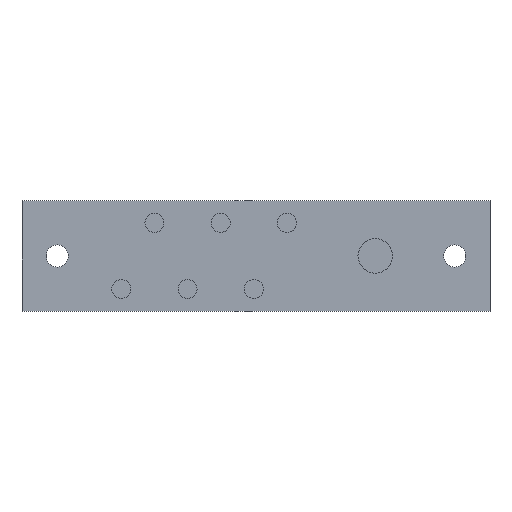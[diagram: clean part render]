
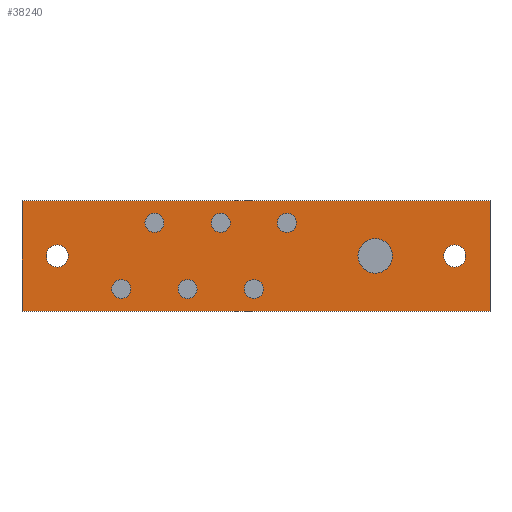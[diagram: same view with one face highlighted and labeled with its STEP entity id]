
A CAD part, top view. The second image highlights one B-rep face of the part: STEP entity #38240.
In plain terms, the highlighted planar face has unit normal (0, 0, 1).
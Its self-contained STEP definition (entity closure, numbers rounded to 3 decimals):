
#35910=CARTESIAN_POINT('',(249.512,66.46,3.));
#35920=VERTEX_POINT('',#35910);
#35950=CARTESIAN_POINT('',(249.512,66.46,3.));
#35960=DIRECTION('',(-1.,0.,0.));
#35970=VECTOR('',#35960,1.);
#35980=LINE('',#35950,#35970);
#35990=CARTESIAN_POINT('',(143.512,66.46,3.));
#36000=VERTEX_POINT('',#35990);
#36010=EDGE_CURVE('',#35920,#36000,#35980,.T.);
#36220=CARTESIAN_POINT('',(249.512,41.46,3.));
#36230=VERTEX_POINT('',#36220);
#36260=CARTESIAN_POINT('',(249.512,41.46,3.));
#36270=DIRECTION('',(0.,1.,0.));
#36280=VECTOR('',#36270,1.);
#36290=LINE('',#36260,#36280);
#36300=EDGE_CURVE('',#36230,#35920,#36290,.T.);
#36460=CARTESIAN_POINT('',(143.512,41.46,3.));
#36470=VERTEX_POINT('',#36460);
#36500=CARTESIAN_POINT('',(143.512,41.46,3.));
#36510=DIRECTION('',(1.,0.,0.));
#36520=VECTOR('',#36510,1.);
#36530=LINE('',#36500,#36520);
#36540=EDGE_CURVE('',#36470,#36230,#36530,.T.);
#36670=CARTESIAN_POINT('',(143.512,66.46,3.));
#36680=DIRECTION('',(0.,-1.,0.));
#36690=VECTOR('',#36680,1.);
#36700=LINE('',#36670,#36690);
#36710=EDGE_CURVE('',#36000,#36470,#36700,.T.);
#36780=CARTESIAN_POINT('',(0.,0.,3.));
#36790=DIRECTION('',(0.,0.,1.));
#36800=DIRECTION('',(1.,0.,0.));
#36810=AXIS2_PLACEMENT_3D('',#36780,#36790,#36800);
#36820=PLANE('',#36810);
#36830=ORIENTED_EDGE('',*,*,#36010,.T.);
#36840=ORIENTED_EDGE('',*,*,#36300,.T.);
#36850=ORIENTED_EDGE('',*,*,#36540,.T.);
#36860=ORIENTED_EDGE('',*,*,#36710,.T.);
#36870=EDGE_LOOP('',(#36860,#36850,#36840,#36830));
#36880=FACE_OUTER_BOUND('',#36870,.T.);
#36890=CARTESIAN_POINT('',(241.512,53.96,3.));
#36900=DIRECTION('',(0.,0.,-1.));
#36910=DIRECTION('',(1.,0.,0.));
#36920=AXIS2_PLACEMENT_3D('',#36890,#36900,#36910);
#36930=CIRCLE('',#36920,2.5);
#36940=CARTESIAN_POINT('',(239.012,53.96,3.));
#36950=VERTEX_POINT('',#36940);
#36960=CARTESIAN_POINT('',(244.012,53.96,3.));
#36970=VERTEX_POINT('',#36960);
#36980=EDGE_CURVE('',#36950,#36970,#36930,.T.);
#36990=ORIENTED_EDGE('',*,*,#36980,.T.);
#37000=EDGE_CURVE('',#36970,#36950,#36930,.T.);
#37010=ORIENTED_EDGE('',*,*,#37000,.T.);
#37020=EDGE_LOOP('',(#37010,#36990));
#37030=FACE_BOUND('',#37020,.T.);
#37040=CARTESIAN_POINT('',(196.012,46.46,3.));
#37050=DIRECTION('',(0.,0.,-1.));
#37060=DIRECTION('',(-1.,0.,0.));
#37070=AXIS2_PLACEMENT_3D('',#37040,#37050,#37060);
#37080=CIRCLE('',#37070,2.);
#37090=CARTESIAN_POINT('',(198.012,46.46,3.));
#37100=VERTEX_POINT('',#37090);
#37110=CARTESIAN_POINT('',(194.012,46.46,3.));
#37120=VERTEX_POINT('',#37110);
#37130=EDGE_CURVE('',#37100,#37120,#37080,.T.);
#37140=ORIENTED_EDGE('',*,*,#37130,.T.);
#37150=EDGE_CURVE('',#37120,#37100,#37080,.T.);
#37160=ORIENTED_EDGE('',*,*,#37150,.T.);
#37170=EDGE_LOOP('',(#37160,#37140));
#37180=FACE_BOUND('',#37170,.T.);
#37190=CARTESIAN_POINT('',(151.512,53.96,3.));
#37200=DIRECTION('',(0.,0.,-1.));
#37210=DIRECTION('',(1.,0.,0.));
#37220=AXIS2_PLACEMENT_3D('',#37190,#37200,#37210);
#37230=CIRCLE('',#37220,2.5);
#37240=CARTESIAN_POINT('',(149.012,53.96,3.));
#37250=VERTEX_POINT('',#37240);
#37260=CARTESIAN_POINT('',(154.012,53.96,3.));
#37270=VERTEX_POINT('',#37260);
#37280=EDGE_CURVE('',#37250,#37270,#37230,.T.);
#37290=ORIENTED_EDGE('',*,*,#37280,.T.);
#37300=EDGE_CURVE('',#37270,#37250,#37230,.T.);
#37310=ORIENTED_EDGE('',*,*,#37300,.T.);
#37320=EDGE_LOOP('',(#37310,#37290));
#37330=FACE_BOUND('',#37320,.T.);
#37340=CARTESIAN_POINT('',(223.512,53.96,3.));
#37350=DIRECTION('',(0.,0.,-1.));
#37360=DIRECTION('',(1.,0.,0.));
#37370=AXIS2_PLACEMENT_3D('',#37340,#37350,#37360);
#37380=CIRCLE('',#37370,3.5);
#37390=CARTESIAN_POINT('',(220.012,53.96,3.));
#37400=VERTEX_POINT('',#37390);
#37410=CARTESIAN_POINT('',(227.012,53.96,3.));
#37420=VERTEX_POINT('',#37410);
#37430=EDGE_CURVE('',#37400,#37420,#37380,.T.);
#37440=ORIENTED_EDGE('',*,*,#37430,.T.);
#37450=EDGE_CURVE('',#37420,#37400,#37380,.T.);
#37460=ORIENTED_EDGE('',*,*,#37450,.T.);
#37470=EDGE_LOOP('',(#37460,#37440));
#37480=FACE_BOUND('',#37470,.T.);
#37490=CARTESIAN_POINT('',(188.512,61.46,3.));
#37500=DIRECTION('',(0.,0.,-1.));
#37510=DIRECTION('',(-1.,0.,0.));
#37520=AXIS2_PLACEMENT_3D('',#37490,#37500,#37510);
#37530=CIRCLE('',#37520,2.);
#37540=CARTESIAN_POINT('',(190.512,61.46,3.));
#37550=VERTEX_POINT('',#37540);
#37560=CARTESIAN_POINT('',(186.512,61.46,3.));
#37570=VERTEX_POINT('',#37560);
#37580=EDGE_CURVE('',#37550,#37570,#37530,.T.);
#37590=ORIENTED_EDGE('',*,*,#37580,.T.);
#37600=EDGE_CURVE('',#37570,#37550,#37530,.T.);
#37610=ORIENTED_EDGE('',*,*,#37600,.T.);
#37620=EDGE_LOOP('',(#37610,#37590));
#37630=FACE_BOUND('',#37620,.T.);
#37640=CARTESIAN_POINT('',(203.512,61.46,3.));
#37650=DIRECTION('',(0.,0.,-1.));
#37660=DIRECTION('',(1.,0.,0.));
#37670=AXIS2_PLACEMENT_3D('',#37640,#37650,#37660);
#37680=CIRCLE('',#37670,2.);
#37690=CARTESIAN_POINT('',(201.512,61.46,3.));
#37700=VERTEX_POINT('',#37690);
#37710=CARTESIAN_POINT('',(205.512,61.46,3.));
#37720=VERTEX_POINT('',#37710);
#37730=EDGE_CURVE('',#37700,#37720,#37680,.T.);
#37740=ORIENTED_EDGE('',*,*,#37730,.T.);
#37750=EDGE_CURVE('',#37720,#37700,#37680,.T.);
#37760=ORIENTED_EDGE('',*,*,#37750,.T.);
#37770=EDGE_LOOP('',(#37760,#37740));
#37780=FACE_BOUND('',#37770,.T.);
#37790=CARTESIAN_POINT('',(166.012,46.46,3.));
#37800=DIRECTION('',(0.,0.,-1.));
#37810=DIRECTION('',(-1.,0.,0.));
#37820=AXIS2_PLACEMENT_3D('',#37790,#37800,#37810);
#37830=CIRCLE('',#37820,2.);
#37840=CARTESIAN_POINT('',(168.012,46.46,3.));
#37850=VERTEX_POINT('',#37840);
#37860=CARTESIAN_POINT('',(164.012,46.46,3.));
#37870=VERTEX_POINT('',#37860);
#37880=EDGE_CURVE('',#37850,#37870,#37830,.T.);
#37890=ORIENTED_EDGE('',*,*,#37880,.T.);
#37900=EDGE_CURVE('',#37870,#37850,#37830,.T.);
#37910=ORIENTED_EDGE('',*,*,#37900,.T.);
#37920=EDGE_LOOP('',(#37910,#37890));
#37930=FACE_BOUND('',#37920,.T.);
#37940=CARTESIAN_POINT('',(173.512,61.46,3.));
#37950=DIRECTION('',(0.,0.,-1.));
#37960=DIRECTION('',(-1.,0.,0.));
#37970=AXIS2_PLACEMENT_3D('',#37940,#37950,#37960);
#37980=CIRCLE('',#37970,2.);
#37990=CARTESIAN_POINT('',(175.512,61.46,3.));
#38000=VERTEX_POINT('',#37990);
#38010=CARTESIAN_POINT('',(171.512,61.46,3.));
#38020=VERTEX_POINT('',#38010);
#38030=EDGE_CURVE('',#38000,#38020,#37980,.T.);
#38040=ORIENTED_EDGE('',*,*,#38030,.T.);
#38050=EDGE_CURVE('',#38020,#38000,#37980,.T.);
#38060=ORIENTED_EDGE('',*,*,#38050,.T.);
#38070=EDGE_LOOP('',(#38060,#38040));
#38080=FACE_BOUND('',#38070,.T.);
#38090=CARTESIAN_POINT('',(181.012,46.46,3.));
#38100=DIRECTION('',(0.,0.,-1.));
#38110=DIRECTION('',(1.,0.,0.));
#38120=AXIS2_PLACEMENT_3D('',#38090,#38100,#38110);
#38130=CIRCLE('',#38120,2.);
#38140=CARTESIAN_POINT('',(179.012,46.46,3.));
#38150=VERTEX_POINT('',#38140);
#38160=CARTESIAN_POINT('',(183.012,46.46,3.));
#38170=VERTEX_POINT('',#38160);
#38180=EDGE_CURVE('',#38150,#38170,#38130,.T.);
#38190=ORIENTED_EDGE('',*,*,#38180,.T.);
#38200=EDGE_CURVE('',#38170,#38150,#38130,.T.);
#38210=ORIENTED_EDGE('',*,*,#38200,.T.);
#38220=EDGE_LOOP('',(#38210,#38190));
#38230=FACE_BOUND('',#38220,.T.);
#38240=ADVANCED_FACE('',(#36880,#37030,#37180,#37330,#37480,#37630,
#37780,#37930,#38080,#38230),#36820,.T.);
